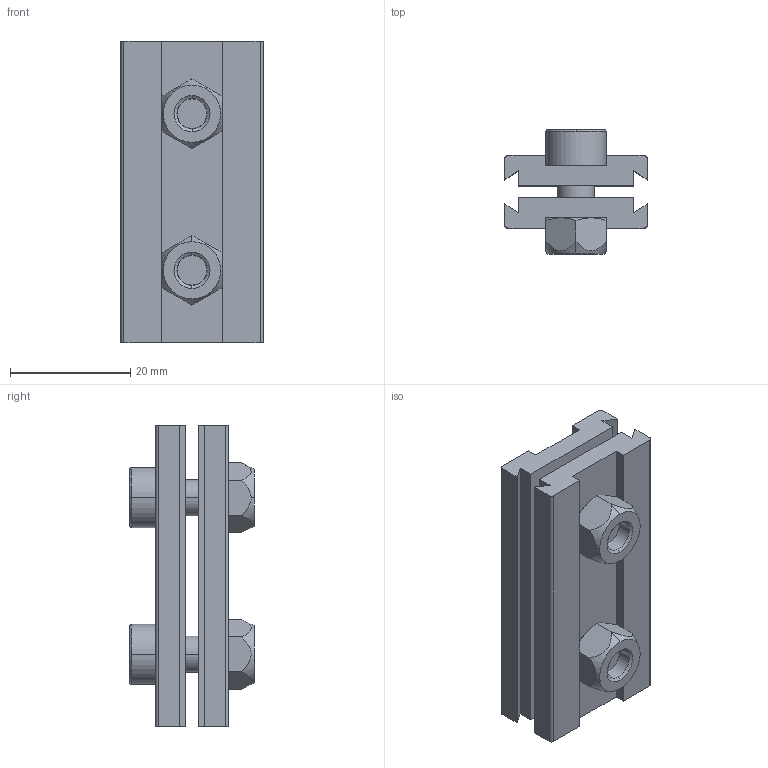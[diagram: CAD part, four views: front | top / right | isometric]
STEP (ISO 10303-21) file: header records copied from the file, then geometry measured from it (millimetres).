
FILE_DESCRIPTION (( 'STEP AP214' ), '1' );
FILE_NAME ('FACS 50.step', '2017-04-05T07:36:40', ( '' ), ( '' ), 'SwSTEP 2.0', 'SolidWorks 2015', '' );
FILE_SCHEMA (( 'AUTOMOTIVE_DESIGN' ));
Length unit declared in the file: millimetre
Products named in the file (1): FACS 50
Bounding box: 23.6 x 20.65 x 50 mm (x, y, z)
Volume: 11083.3 mm3; surface area: 8832.1 mm2
Topology: 6 solids, 6 shells, 145 faces, 362 edges, 229 vertices
Faces by surface type: plane 74, cone 35, cylinder 28, bspline 8
Entity records: 4845 total; most frequent: CARTESIAN_POINT 1316, DIRECTION 716, ORIENTED_EDGE 716, EDGE_CURVE 358, AXIS2_PLACEMENT_3D 267, VERTEX_POINT 229, LINE 182, VECTOR 182
